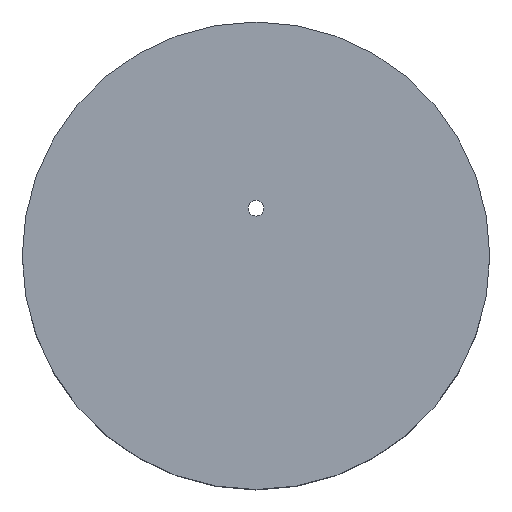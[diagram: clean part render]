
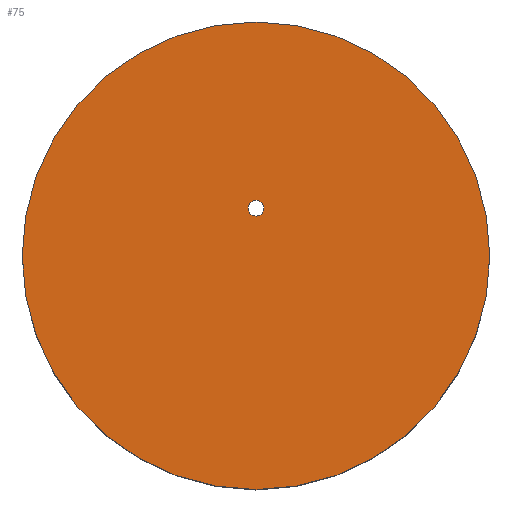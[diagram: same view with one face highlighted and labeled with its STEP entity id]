
A CAD part, top view. The second image highlights one B-rep face of the part: STEP entity #75.
In plain terms, the highlighted planar face has unit normal (0, 0, 1).
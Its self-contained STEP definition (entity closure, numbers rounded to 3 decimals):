
#48=CARTESIAN_POINT('',(0.,0.,1.6));
#49=DIRECTION('',(1.,0.,0.));
#50=DIRECTION('',(0.,0.,-1.));
#51=AXIS2_PLACEMENT_3D('',#48,#50,#49);
#52=PLANE('',#51);
#53=CARTESIAN_POINT('',(25.3,0.,1.6));
#54=VERTEX_POINT('',#53);
#55=CARTESIAN_POINT('',(0.,0.,1.6));
#56=DIRECTION('',(1.,0.,0.));
#57=DIRECTION('',(0.,0.,1.));
#58=AXIS2_PLACEMENT_3D('',#55,#57,#56);
#59=CIRCLE('',#58,25.3);
#60=EDGE_CURVE('',#54,#54,#59,.T.);
#61=ORIENTED_EDGE('E6',*,*,#60,.F.);
#62=EDGE_LOOP('',(#61));
#63=FACE_OUTER_BOUND('',#62,.F.);
#64=CARTESIAN_POINT('',(0.85,5.15,1.6));
#65=VERTEX_POINT('',#64);
#66=CARTESIAN_POINT('',(0.,5.15,1.6));
#67=DIRECTION('',(1.,0.,0.));
#68=DIRECTION('',(0.,0.,-1.));
#69=AXIS2_PLACEMENT_3D('',#66,#68,#67);
#70=CIRCLE('',#69,0.85);
#71=EDGE_CURVE('',#65,#65,#70,.T.);
#72=ORIENTED_EDGE('E8',*,*,#71,.F.);
#73=EDGE_LOOP('',(#72));
#74=FACE_BOUND('',#73,.F.);
#75=ADVANCED_FACE('F5',(#63,#74),#52,.F.);
